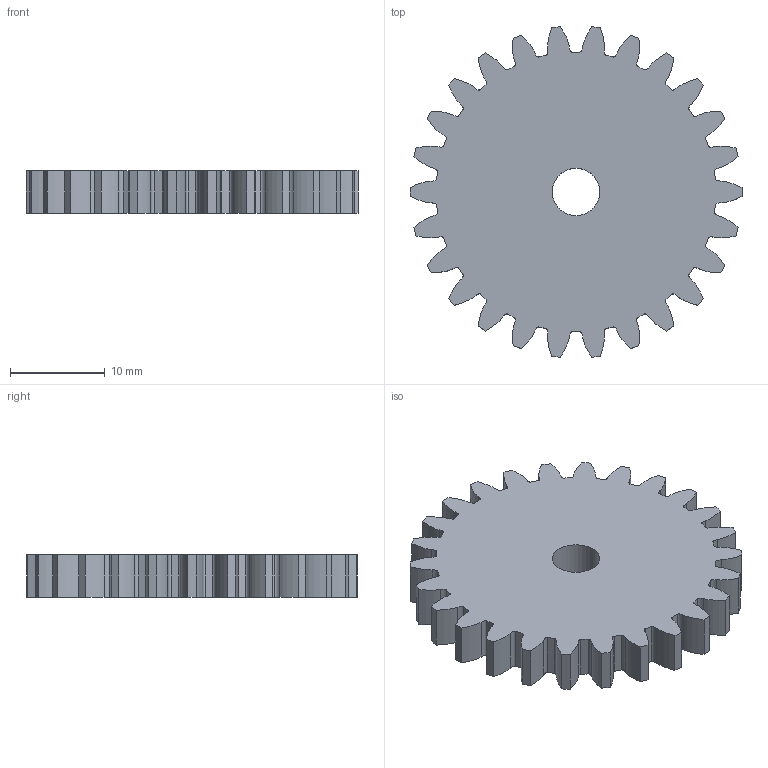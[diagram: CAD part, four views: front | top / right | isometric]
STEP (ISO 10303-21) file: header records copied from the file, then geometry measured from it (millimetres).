
FILE_DESCRIPTION(('Mechanical CAD reference from nasji.com'),'2;1');
FILE_NAME('NASJI.step','',(''),(''),'','NASJI distribution','');
FILE_SCHEMA(('AUTOMOTIVE_DESIGN { 1 0 10303 214 1 1 1 1 }'));
Length unit declared in the file: millimetre
Products named in the file (1): Open CASCADE STEP translator 7.8 193
Bounding box: 34.99 x 34.84 x 4.5 mm (x, y, z)
Volume: 3600.4 mm3; surface area: 2576.9 mm2
Topology: 1 solids, 1 shells, 159 faces, 471 edges, 314 vertices
Faces by surface type: bspline 156, plane 2, cylinder 1
Full cylindrical faces by diameter (mm): 5 x1
Entity records: 10726 total; most frequent: CARTESIAN_POINT 5331, ORIENTED_EDGE 942, PCURVE 942, DEFINITIONAL_REPRESENTATION 942, B_SPLINE_CURVE_WITH_KNOTS 780, EDGE_CURVE 471, SURFACE_CURVE 470, VERTEX_POINT 314
